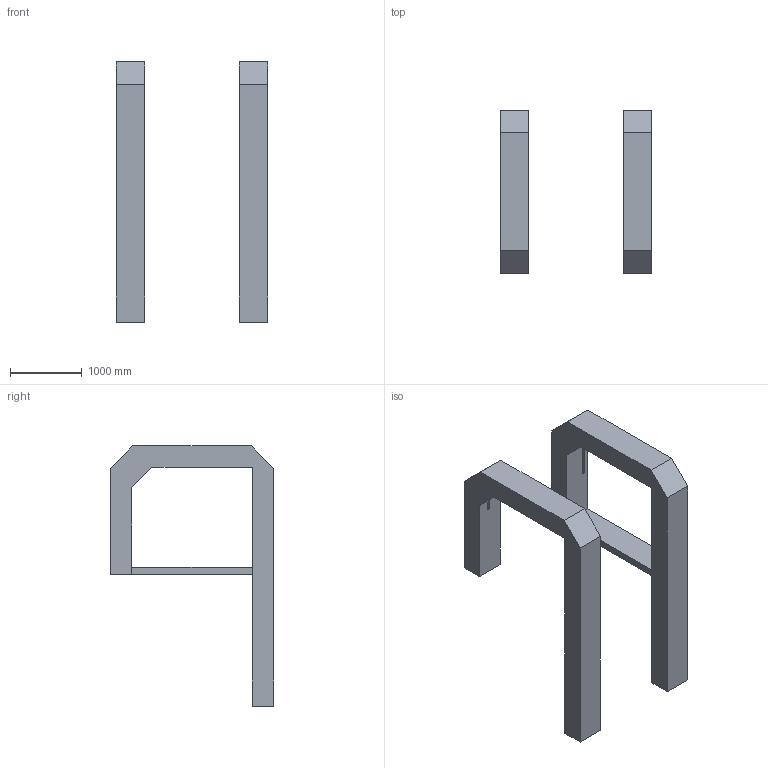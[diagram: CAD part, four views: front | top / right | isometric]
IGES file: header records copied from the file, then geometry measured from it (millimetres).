
Start section: START RECORD GO HERE.
Global section: file name: joues-bati-cotes.igs; native system: IBM CATIA IGES - CATIA Version 5 Release 11 ; preprocessor: CATIA Version 5 Release 11 ; author: mta; organization: MONTREUIL; date: 20031030.145019; units: millimetre
Bounding box: 2120 x 2281 x 3630 mm (x, y, z)
Surface area: 21120391.1 mm2 (no closed solid volume)
Topology: 0 solids, 0 shells, 32 faces, 200 edges, 200 vertices
Faces by surface type: plane 32
